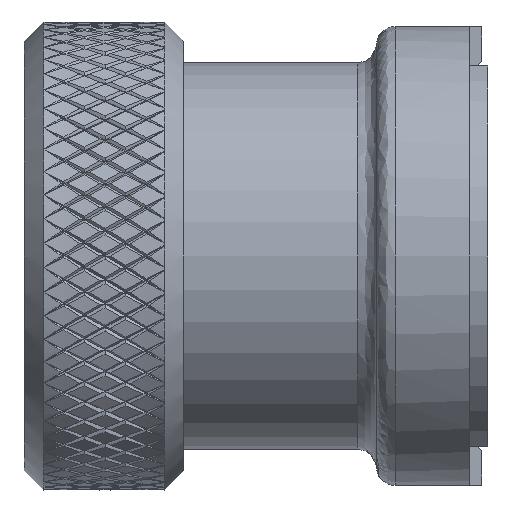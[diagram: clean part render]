
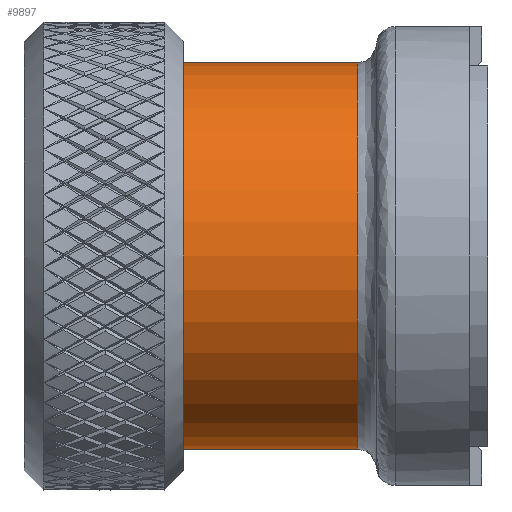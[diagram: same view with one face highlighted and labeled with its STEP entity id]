
A CAD part, left-side view. The second image highlights one B-rep face of the part: STEP entity #9897.
In plain terms, the highlighted cylindrical face has radius 15.875 mm (diameter 31.75 mm), a partial arc.
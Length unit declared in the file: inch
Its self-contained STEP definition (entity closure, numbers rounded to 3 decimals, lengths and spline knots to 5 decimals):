
#1181 = EDGE_CURVE ( 'NONE', #12491, #10833, #19322, .T. ) ;
#1466 = CARTESIAN_POINT ( 'NONE',  ( 0., -0.515, -0.625 ) ) ;
#2115 = FACE_OUTER_BOUND ( 'NONE', #36647, .T. ) ;
#3104 = DIRECTION ( 'NONE',  ( 0., 0., 1. ) ) ;
#3312 = DIRECTION ( 'NONE',  ( 0., 1., 0. ) ) ;
#3558 = AXIS2_PLACEMENT_3D ( 'NONE', #26765, #30136, #3104 ) ;
#6011 = ORIENTED_EDGE ( 'NONE', *, *, #10058, .T. ) ;
#7165 = AXIS2_PLACEMENT_3D ( 'NONE', #26604, #3312, #28875 ) ;
#7997 = EDGE_CURVE ( 'NONE', #12491, #16462, #34633, .T. ) ;
#8691 = ORIENTED_EDGE ( 'NONE', *, *, #7997, .F. ) ;
#9897 = ADVANCED_FACE ( 'NONE', ( #2115 ), #17958, .T. ) ;
#10058 = EDGE_CURVE ( 'NONE', #33475, #16462, #30642, .T. ) ;
#10833 = VERTEX_POINT ( 'NONE', #13953 ) ;
#12491 = VERTEX_POINT ( 'NONE', #28801 ) ;
#12911 = ORIENTED_EDGE ( 'NONE', *, *, #36389, .T. ) ;
#13131 = ORIENTED_EDGE ( 'NONE', *, *, #1181, .T. ) ;
#13953 = CARTESIAN_POINT ( 'NONE',  ( 0., -1.08, 0.625 ) ) ;
#15695 = LINE ( 'NONE', #33578, #41523 ) ;
#16462 = VERTEX_POINT ( 'NONE', #1466 ) ;
#16747 = DIRECTION ( 'NONE',  ( 0., 1., 0. ) ) ;
#17958 = CYLINDRICAL_SURFACE ( 'NONE', #3558, 0.625 ) ;
#18617 = DIRECTION ( 'NONE',  ( 0., -1., 0. ) ) ;
#19246 = CARTESIAN_POINT ( 'NONE',  ( 0., 2.074, -0.625 ) ) ;
#19322 = CIRCLE ( 'NONE', #7165, 0.625 ) ;
#26604 = CARTESIAN_POINT ( 'NONE',  ( 0., -1.08, 0. ) ) ;
#26765 = CARTESIAN_POINT ( 'NONE',  ( 0., 2.074, 0. ) ) ;
#28801 = CARTESIAN_POINT ( 'NONE',  ( 0., -1.08, -0.625 ) ) ;
#28875 = DIRECTION ( 'NONE',  ( 0., 0., 1. ) ) ;
#30136 = DIRECTION ( 'NONE',  ( 0., 1., 0. ) ) ;
#30642 = CIRCLE ( 'NONE', #30724, 0.625 ) ;
#30724 = AXIS2_PLACEMENT_3D ( 'NONE', #38783, #18617, #42158 ) ;
#33475 = VERTEX_POINT ( 'NONE', #41102 ) ;
#33578 = CARTESIAN_POINT ( 'NONE',  ( 0., 2.074, 0.625 ) ) ;
#34633 = LINE ( 'NONE', #19246, #43577 ) ;
#36389 = EDGE_CURVE ( 'NONE', #10833, #33475, #15695, .T. ) ;
#36647 = EDGE_LOOP ( 'NONE', ( #8691, #13131, #12911, #6011 ) ) ;
#38783 = CARTESIAN_POINT ( 'NONE',  ( 0., -0.515, 0. ) ) ;
#39432 = DIRECTION ( 'NONE',  ( 0., 1., 0. ) ) ;
#41102 = CARTESIAN_POINT ( 'NONE',  ( 0., -0.515, 0.625 ) ) ;
#41523 = VECTOR ( 'NONE', #16747, 39.37008 ) ;
#42158 = DIRECTION ( 'NONE',  ( 0., 0., 1. ) ) ;
#43577 = VECTOR ( 'NONE', #39432, 39.37008 ) ;
